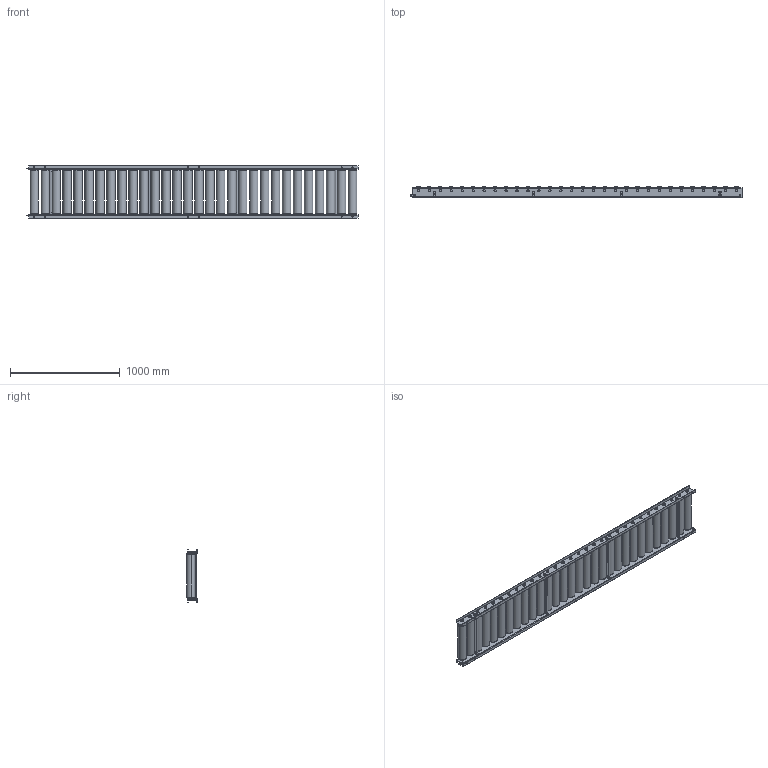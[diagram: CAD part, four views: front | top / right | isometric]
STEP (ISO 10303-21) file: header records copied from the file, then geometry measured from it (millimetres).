
FILE_DESCRIPTION (( 'STEP AP203' ), '1' );
FILE_NAME ('R-7638N.step', '2024-02-26T06:37:50', ( '' ), ( '' ), 'SwSTEP 2.0', 'SolidWorks 2023', '' );
FILE_SCHEMA (( 'CONFIG_CONTROL_DESIGN' ));
Length unit declared in the file: millimetre
Products named in the file (1): R-7638N
Bounding box: 3025 x 100.01 x 475 mm (x, y, z)
Volume: 59472963.3 mm3; surface area: 6810755.1 mm2
Topology: 104 solids, 104 shells, 1384 faces, 3052 edges, 1952 vertices
Faces by surface type: cylinder 626, plane 542, torus 120, cone 96
Entity records: 39735 total; most frequent: CARTESIAN_POINT 7733, DIRECTION 7214, ORIENTED_EDGE 6104, EDGE_CURVE 3052, AXIS2_PLACEMENT_3D 3033, VERTEX_POINT 1952, EDGE_LOOP 1728, CIRCLE 1648
